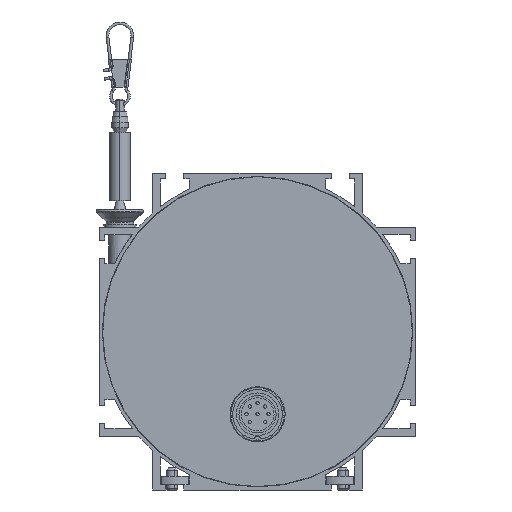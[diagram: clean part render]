
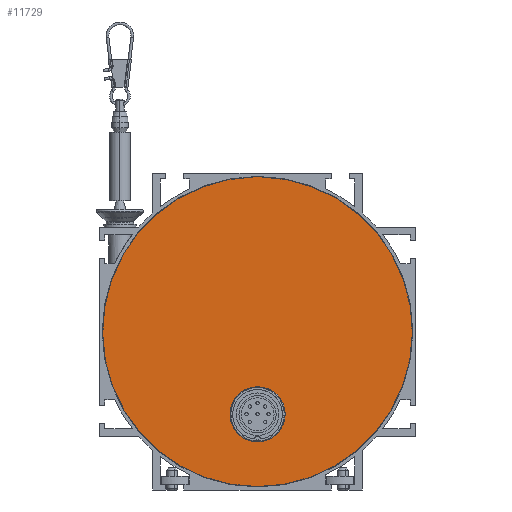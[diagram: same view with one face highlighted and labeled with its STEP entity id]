
A CAD part, left-side view. The second image highlights one B-rep face of the part: STEP entity #11729.
In plain terms, the highlighted planar face has unit normal (-1, 0, 0).
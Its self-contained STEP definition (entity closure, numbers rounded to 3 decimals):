
#4056=CARTESIAN_POINT('',(0.,0.,0.));
#4057=DIRECTION('',(-1.,0.,0.));
#4058=DIRECTION('',(0.,0.019,1.));
#4059=AXIS2_PLACEMENT_3D('',#4056,#4057,#4058);
#4065=DIRECTION('',(0.,1.,0.));
#4066=VECTOR('',#4065,2.121);
#4067=CARTESIAN_POINT('',(0.,-1.061,56.24));
#4068=LINE('',#4067,#4066);
#4069=CARTESIAN_POINT('',(0.,0.,-30.));
#4070=DIRECTION('',(-1.,0.,0.));
#4071=DIRECTION('',(0.,1.,0.));
#4072=AXIS2_PLACEMENT_3D('',#4069,#4070,#4071);
#4074=CARTESIAN_POINT('',(0.,0.,-30.));
#4075=DIRECTION('',(-1.,0.,0.));
#4076=DIRECTION('',(0.,-1.,0.));
#4077=AXIS2_PLACEMENT_3D('',#4074,#4075,#4076);
#5990=CARTESIAN_POINT('',(0.,10.,-30.));
#5991=CARTESIAN_POINT('',(0.,-10.,-30.));
#5992=VERTEX_POINT('',#5990);
#5993=VERTEX_POINT('',#5991);
#6002=CARTESIAN_POINT('',(0.,1.061,56.24));
#6003=VERTEX_POINT('',#6002);
#6004=CARTESIAN_POINT('',(0.,-1.061,56.24));
#6005=VERTEX_POINT('',#6004);
#11714=CARTESIAN_POINT('',(0.,0.,0.));
#11715=DIRECTION('',(1.,0.,0.));
#11716=DIRECTION('',(0.,1.,0.));
#11717=AXIS2_PLACEMENT_3D('',#11714,#11715,#11716);
#11718=PLANE('',#11717);
#11719=ORIENTED_EDGE('',*,*,#11694,.F.);
#11720=ORIENTED_EDGE('',*,*,#11708,.F.);
#11721=EDGE_LOOP('',(#11719,#11720));
#11722=FACE_OUTER_BOUND('',#11721,.F.);
#11724=ORIENTED_EDGE('',*,*,#11723,.T.);
#11726=ORIENTED_EDGE('',*,*,#11725,.T.);
#11727=EDGE_LOOP('',(#11724,#11726));
#11728=FACE_BOUND('',#11727,.F.);
#11729=ADVANCED_FACE('',(#11722,#11728),#11718,.F.);
#4060=CIRCLE('',#4059,56.25);
#4073=CIRCLE('',#4072,10.);
#4078=CIRCLE('',#4077,10.);
#11694=EDGE_CURVE('',#6003,#6005,#4060,.T.);
#11708=EDGE_CURVE('',#6005,#6003,#4068,.T.);
#11723=EDGE_CURVE('',#5992,#5993,#4073,.T.);
#11725=EDGE_CURVE('',#5993,#5992,#4078,.T.);
